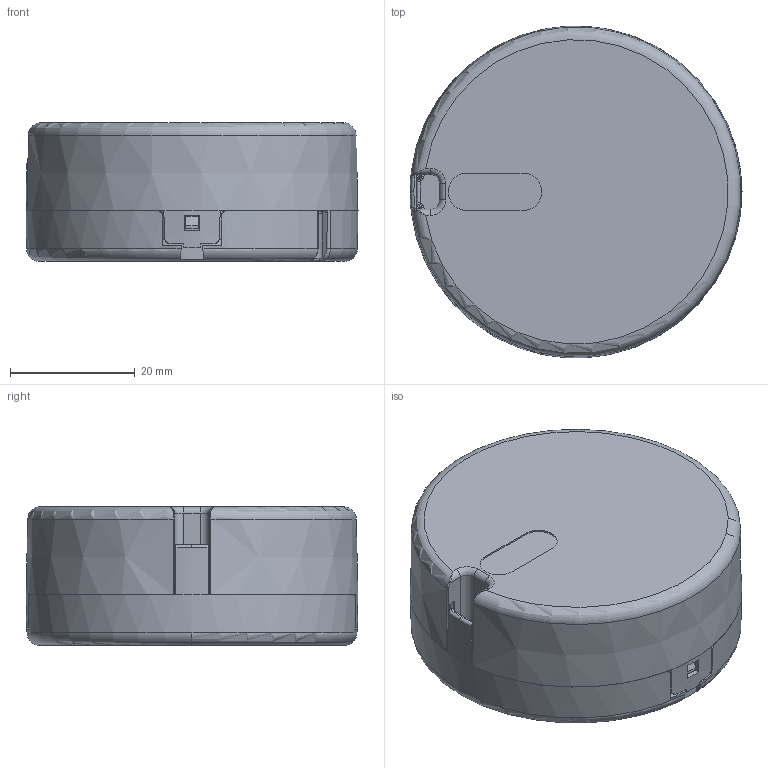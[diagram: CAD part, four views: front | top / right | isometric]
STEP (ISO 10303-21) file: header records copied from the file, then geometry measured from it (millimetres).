
FILE_DESCRIPTION(('Creo Elements/Direct Modeling STEP Export'),'2;1');
FILE_NAME('3D_Blu2Light_Connect.stp','2019-12-18T 8:26:24',(''),(''),'PTC Creo Elements/Direct Modeling STEP processor for AP214 (Solid Model)','PTC Creo Elements/Direct Modeling 19.0E 27-Jun-2016 (C) Parametric Technology GmbH','');
FILE_SCHEMA(('AUTOMOTIVE_DESIGN { 1 0 10303 214 1 1 1 1 }'));
Length unit declared in the file: millimetre
Products named in the file (3): casing_bottom; casing_top; 3D_Blu2Light_Connect
Assembly tree (2 placements, depth 2):
  3D_Blu2Light_Connect
    casing_top
    casing_bottom
Bounding box: 53.25 x 53.22 x 22.2 mm (x, y, z)
Volume: 12310.6 mm3; surface area: 21933.1 mm2
Topology: 2 solids, 2 shells, 417 faces, 1160 edges, 746 vertices
Faces by surface type: plane 188, cone 81, cylinder 69, torus 47, bspline 32
Entity records: 19418 total; most frequent: CARTESIAN_POINT 5821, ORIENTED_EDGE 2304, DIRECTION 2049, EDGE_CURVE 1152, AXIS2_PLACEMENT_3D 816, VERTEX_POINT 746, EDGE_LOOP 434, FACE_OUTER_BOUND 417
